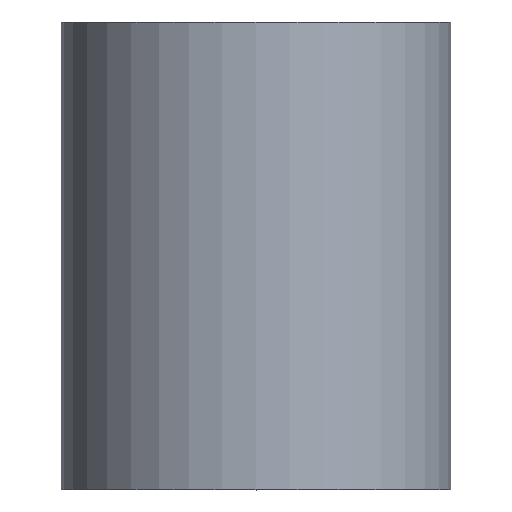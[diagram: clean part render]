
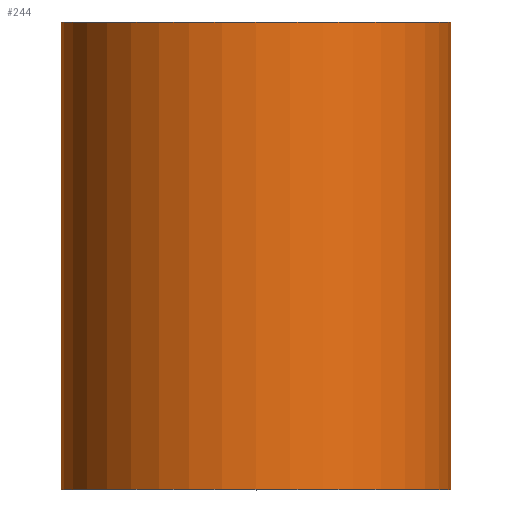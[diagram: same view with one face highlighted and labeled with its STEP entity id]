
A CAD part, top view. The second image highlights one B-rep face of the part: STEP entity #244.
In plain terms, the highlighted cylindrical face has radius 2.5 mm (diameter 5 mm), a partial arc.
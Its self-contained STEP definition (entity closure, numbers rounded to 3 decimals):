
#2 = VERTEX_POINT ( 'NONE', #188 ) ;
#6 = AXIS2_PLACEMENT_3D ( 'NONE', #189, #63, #66 ) ;
#30 = DIRECTION ( 'NONE',  ( -1., 0., 0. ) ) ;
#45 = VERTEX_POINT ( 'NONE', #112 ) ;
#48 = ORIENTED_EDGE ( 'NONE', *, *, #59, .T. ) ;
#51 = DIRECTION ( 'NONE',  ( 0., 1., 0. ) ) ;
#52 = CARTESIAN_POINT ( 'NONE',  ( -2.5, 0., 0. ) ) ;
#59 = EDGE_CURVE ( 'NONE', #127, #301, #254, .T. ) ;
#63 = DIRECTION ( 'NONE',  ( 0., 1., 0. ) ) ;
#66 = DIRECTION ( 'NONE',  ( -1., 0., 0. ) ) ;
#69 = FACE_OUTER_BOUND ( 'NONE', #272, .T. ) ;
#85 = VECTOR ( 'NONE', #263, 1000. ) ;
#99 = CYLINDRICAL_SURFACE ( 'NONE', #184, 2.5 ) ;
#109 = ORIENTED_EDGE ( 'NONE', *, *, #158, .F. ) ;
#112 = CARTESIAN_POINT ( 'NONE',  ( -2.5, 6., 0. ) ) ;
#123 = DIRECTION ( 'NONE',  ( -1., 0., 0. ) ) ;
#127 = VERTEX_POINT ( 'NONE', #52 ) ;
#130 = LINE ( 'NONE', #255, #159 ) ;
#135 = CIRCLE ( 'NONE', #6, 2.5 ) ;
#139 = EDGE_CURVE ( 'NONE', #301, #2, #130, .T. ) ;
#148 = CARTESIAN_POINT ( 'NONE',  ( -2.5, 0., 0. ) ) ;
#158 = EDGE_CURVE ( 'NONE', #45, #2, #135, .T. ) ;
#159 = VECTOR ( 'NONE', #256, 1000. ) ;
#167 = CARTESIAN_POINT ( 'NONE',  ( 2.5, 0., 0. ) ) ;
#172 = CARTESIAN_POINT ( 'NONE',  ( 0., 0., 0. ) ) ;
#184 = AXIS2_PLACEMENT_3D ( 'NONE', #284, #261, #30 ) ;
#188 = CARTESIAN_POINT ( 'NONE',  ( 2.5, 6., 0. ) ) ;
#189 = CARTESIAN_POINT ( 'NONE',  ( 0., 6., 0. ) ) ;
#227 = ORIENTED_EDGE ( 'NONE', *, *, #139, .T. ) ;
#244 = ADVANCED_FACE ( 'NONE', ( #69 ), #99, .T. ) ;
#251 = EDGE_CURVE ( 'NONE', #127, #45, #260, .T. ) ;
#254 = CIRCLE ( 'NONE', #293, 2.5 ) ;
#255 = CARTESIAN_POINT ( 'NONE',  ( 2.5, 0., 0. ) ) ;
#256 = DIRECTION ( 'NONE',  ( 0., 1., 0. ) ) ;
#260 = LINE ( 'NONE', #148, #85 ) ;
#261 = DIRECTION ( 'NONE',  ( 0., 1., 0. ) ) ;
#263 = DIRECTION ( 'NONE',  ( 0., 1., 0. ) ) ;
#271 = ORIENTED_EDGE ( 'NONE', *, *, #251, .F. ) ;
#272 = EDGE_LOOP ( 'NONE', ( #48, #227, #109, #271 ) ) ;
#284 = CARTESIAN_POINT ( 'NONE',  ( 0., 0., 0. ) ) ;
#293 = AXIS2_PLACEMENT_3D ( 'NONE', #172, #51, #123 ) ;
#301 = VERTEX_POINT ( 'NONE', #167 ) ;
